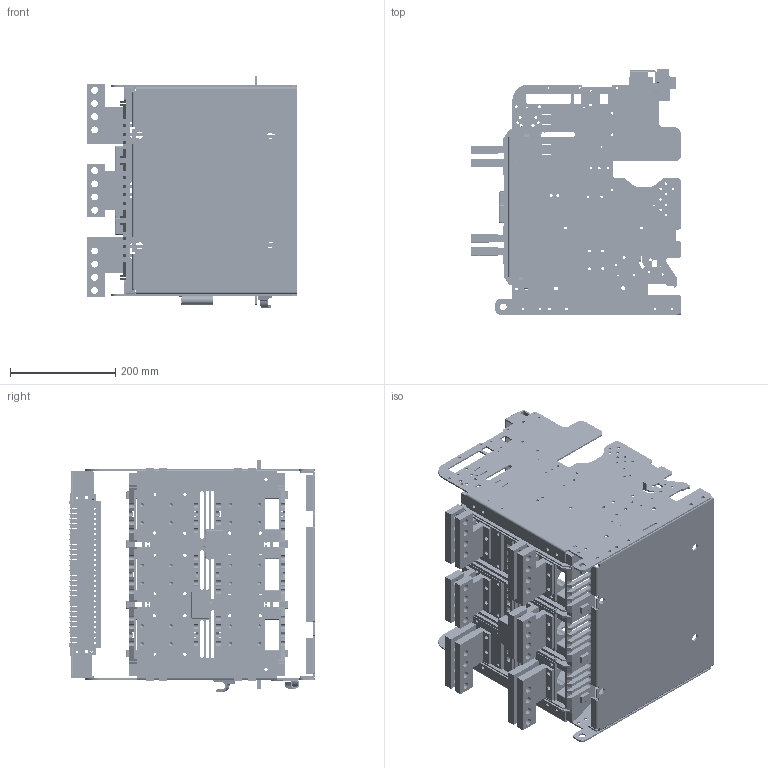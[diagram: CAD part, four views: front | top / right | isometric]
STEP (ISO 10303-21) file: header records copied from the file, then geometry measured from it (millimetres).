
FILE_DESCRIPTION((''),'2;1');
FILE_NAME('B403H_ASM','2017-01-31T',('HHI'),(''),'PRO/ENGINEER BY PARAMETRIC TECHNOLOGY CORPORATION, 2012453','PRO/ENGINEER BY PARAMETRIC TECHNOLOGY CORPORATION, 2012453','');
FILE_SCHEMA(('CONFIG_CONTROL_DESIGN'));
Products named in the file (12): MAIN_SC-DR-FRAME_L; MAIN_SC_DR_BASE_403; MAIN_SC-DR-FRAME_R; SC_CO_JACK_DFC_403; MAIN_SC-CONTROL_JACK-CRADLE; SC-MAIN-TERMINAL-MOLD-403; ISOLATING_CONDUCTOR_H_L100; ISOLATING_CONDUCTOR_H_L75; JOINT_TERMINAL_40H_R; JOINT_TERMINAL_40H_L; JOINT_TERMINAL_40H_MM; B403H_ASM
Assembly tree (24 placements, depth 2):
  B403H_ASM
    MAIN_SC-DR-FRAME_L
    MAIN_SC_DR_BASE_403
    MAIN_SC-DR-FRAME_R
    SC_CO_JACK_DFC_403
    MAIN_SC-CONTROL_JACK-CRADLE
    SC-MAIN-TERMINAL-MOLD-403
    ISOLATING_CONDUCTOR_H_L100  x3
    ISOLATING_CONDUCTOR_H_L75  x3
    JOINT_TERMINAL_40H_R  x4
    JOINT_TERMINAL_40H_L  x4
    JOINT_TERMINAL_40H_MM  x4
Bounding box: 399.6 x 466.35 x 439.3 mm (x, y, z)
Volume: 5033957.2 mm3; surface area: 2296254.5 mm2
Topology: 26 solids, 26 shells, 7391 faces, 22049 edges, 14450 vertices
Faces by surface type: plane 5578, cylinder 1707, cone 52, sphere 42, bspline 6, torus 6
Entity records: 226951 total; most frequent: CARTESIAN_POINT 40676, ORIENTED_EDGE 40392, DIRECTION 36369, EDGE_CURVE 20196, VECTOR 17415, LINE 17415, VERTEX_POINT 13252, AXIS2_PLACEMENT_3D 9477
